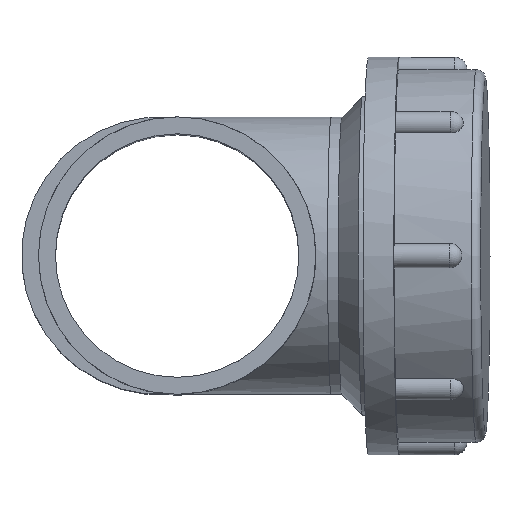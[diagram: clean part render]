
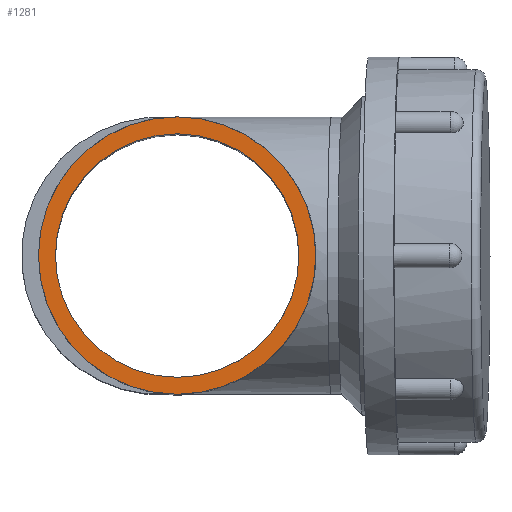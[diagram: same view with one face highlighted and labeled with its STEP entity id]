
A CAD part, top view. The second image highlights one B-rep face of the part: STEP entity #1281.
In plain terms, the highlighted planar face has unit normal (0, 0, 1).
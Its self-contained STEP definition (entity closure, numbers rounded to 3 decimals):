
#146=PLANE($,#1424);
#218=FACE_BOUND($,#376,.T.);
#219=FACE_BOUND($,#377,.T.);
#376=EDGE_LOOP($,(#968));
#377=EDGE_LOOP($,(#969));
#468=CIRCLE($,#1373,45.);
#470=CIRCLE($,#1376,39.5);
#596=VERTEX_POINT($,#2079);
#598=VERTEX_POINT($,#2084);
#716=EDGE_CURVE($,#596,#596,#468,.T.);
#718=EDGE_CURVE($,#598,#598,#470,.T.);
#968=ORIENTED_EDGE($,*,*,#718,.T.);
#969=ORIENTED_EDGE($,*,*,#716,.F.);
#1281=ADVANCED_FACE($,(#218,#219),#146,.F.);
#1373=AXIS2_PLACEMENT_3D($,#2080,#1634,#1635);
#1376=AXIS2_PLACEMENT_3D($,#2085,#1640,#1641);
#1424=AXIS2_PLACEMENT_3D($,#2133,#1736,#1737);
#1634=DIRECTION('center_axis',(0.,0.,-1.));
#1635=DIRECTION('ref_axis',(-1.,0.,0.));
#1640=DIRECTION('center_axis',(0.,0.,-1.));
#1641=DIRECTION('ref_axis',(-1.,0.,0.));
#1736=DIRECTION('center_axis',(0.,0.,-1.));
#1737=DIRECTION('ref_axis',(-1.,0.,0.));
#2079=CARTESIAN_POINT('',(45.,0.,203.));
#2080=CARTESIAN_POINT('Origin',(0.,0.,203.));
#2084=CARTESIAN_POINT('',(39.5,0.,203.));
#2085=CARTESIAN_POINT('Origin',(0.,0.,203.));
#2133=CARTESIAN_POINT('Origin',(0.,0.,203.));
